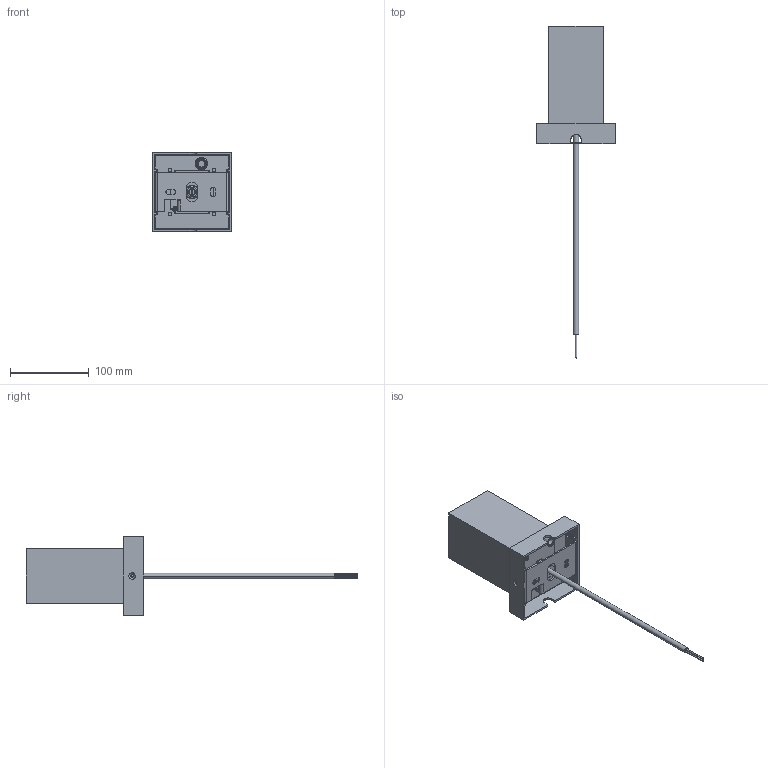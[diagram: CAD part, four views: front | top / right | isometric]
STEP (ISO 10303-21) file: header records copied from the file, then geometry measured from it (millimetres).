
FILE_DESCRIPTION((''),'2;1');
FILE_NAME('8VH_ASM','2025-07-14T',('C028'),(''),'CREO PARAMETRIC BY PTC INC, 2014190','CREO PARAMETRIC BY PTC INC, 2014190','');
FILE_SCHEMA(('CONFIG_CONTROL_DESIGN'));
Products named in the file (25): PRT0020; DIZHUO002_1; PRT0021; O-0304; PRT0023; ZHIJIA008_1; DIAN_YUAN-70-1; SCREW-M12_1_19; XINGUIJIAO_15; GUIJIAOSAI-005_9; LUOMUZUJIAN_ASM_15_ASM; M14_ASM; 9AD; B71; R7_ASM; 12-1; 12-2; 8-1; 8-2; 8-4; 8-8; 3CS_; ASM0001_ASM; QI_FA; 8VH_ASM
Assembly tree (25 placements, depth 4):
  8VH_ASM
    PRT0020
    DIZHUO002_1
    PRT0021
    O-0304
    PRT0023
    ZHIJIA008_1
    DIAN_YUAN-70-1
    M14_ASM
      LUOMUZUJIAN_ASM_15_ASM
        SCREW-M12_1_19
        XINGUIJIAO_15
        GUIJIAOSAI-005_9
    R7_ASM
      9AD
      B71
    ASM0001_ASM
      12-1
      12-2
      8-1
      8-2
      8-4
      8-8  x2
      3CS_
    QI_FA
Bounding box: 100 x 422.7 x 100 mm (x, y, z)
Volume: 358341.4 mm3; surface area: 205328.8 mm2
Topology: 22 solids, 22 shells, 1807 faces, 4803 edges, 3091 vertices
Faces by surface type: plane 990, cylinder 415, cone 192, bspline 128, torus 66, sphere 16
Entity records: 62212 total; most frequent: CARTESIAN_POINT 20134, ORIENTED_EDGE 8898, DIRECTION 8323, EDGE_CURVE 4449, VERTEX_POINT 2855, VECTOR 2839, LINE 2839, AXIS2_PLACEMENT_3D 2742
